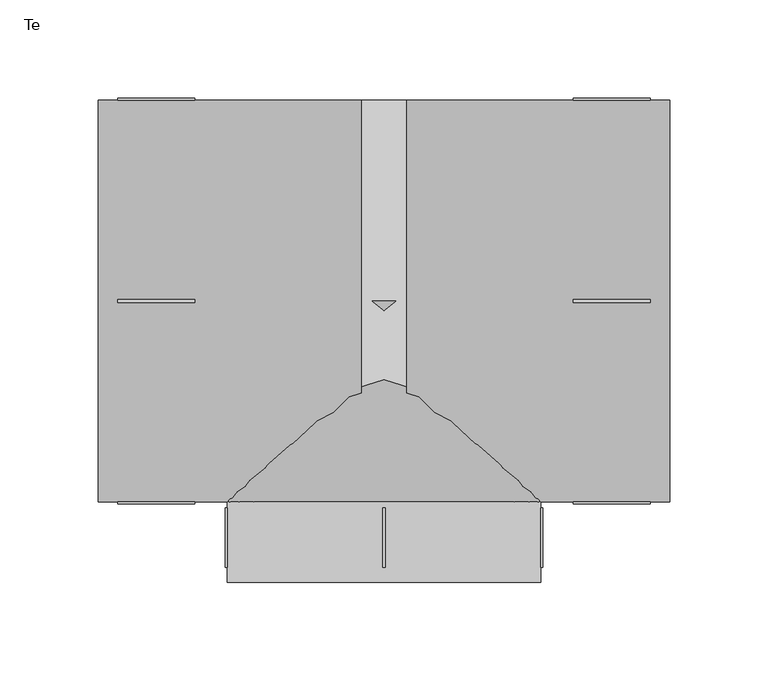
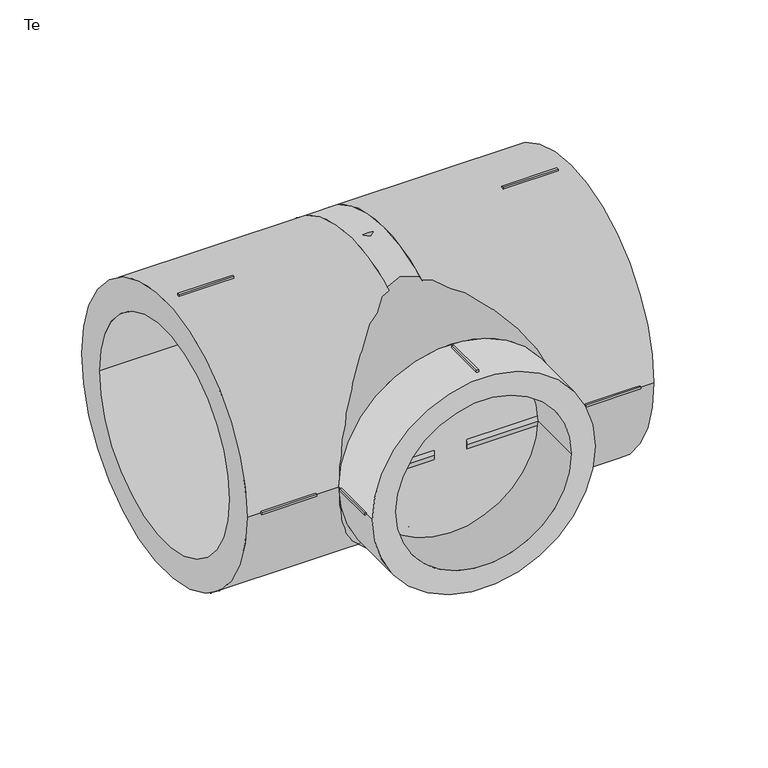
"""IFC4 building model written with IfcOpenShell, lengths in millimetres: pipe fitting geometry, EGB_VASEN_ PPR_Te WXR300_Te reducida WXR310 : Te."""

from ifc_helpers import new_model, si_unit, point, frame, origin, origin_2d, place, context, project, spatial, polyline, circle_curve, trimmed, segment, composite_curve, outline, extrude, source, transform, mapped, element, save
from ifc_brep_helpers import plane_surface, revolved_surface, advanced_brep


def te_dd384a08(model_context):
    return source(origin(), model_context, "Body", "SolidModel", [
        extrude(outline(polyline([(-0.75, -105.0), (0.75, -105.0), (0.75, -135.4), (-0.75, -135.4), (-0.75, -105.0)])), frame((0.0, 0.0, 78.5), z_axis=(0.0, 0.0, 1.0), x_axis=(1.0, 0.0, 0.0)), (0.0, 0.0, 1.0), 2.0),
        extrude(outline(polyline([(-0.75, -105.0), (0.75, -105.0), (0.75, -135.4), (-0.75, -135.4), (-0.75, -105.0)])), frame((0.0, 0.0, -80.5), z_axis=(0.0, 0.0, 1.0), x_axis=(1.0, 0.0, 0.0)), (0.0, 0.0, 1.0), 2.0),
        extrude(outline(polyline([(78.5, -105.0), (80.5, -105.0), (80.5, -135.4), (78.5, -135.4), (78.5, -105.0)])), frame((0.0, 0.0, -0.75), z_axis=(0.0, 0.0, 1.0), x_axis=(1.0, 0.0, 0.0)), (0.0, 0.0, 1.0), 1.5),
        extrude(outline(polyline([(-80.5, -105.0), (-78.5, -105.0), (-78.5, -135.4), (-80.5, -135.4), (-80.5, -105.0)])), frame((0.0, 0.0, -0.75), z_axis=(0.0, 0.0, 1.0), x_axis=(1.0, 0.0, 0.0)), (0.0, 0.0, 1.0), 1.5),
        extrude(outline(polyline([(96.0, -0.75), (96.0, 0.75), (135.2, 0.75), (135.2, -0.75), (96.0, -0.75)])), frame((0.0, 0.0, 101.0), z_axis=(0.0, 0.0, 1.0), x_axis=(1.0, 0.0, 0.0)), (0.0, 0.0, 1.0), 2.0),
        extrude(outline(polyline([(96.0, -0.75), (96.0, 0.75), (135.2, 0.75), (135.2, -0.75), (96.0, -0.75)])), frame((0.0, 0.0, -103.0), z_axis=(0.0, 0.0, 1.0), x_axis=(1.0, 0.0, 0.0)), (0.0, 0.0, 1.0), 2.0),
        extrude(outline(polyline([(96.0, 101.0), (96.0, 103.0), (135.2, 103.0), (135.2, 101.0), (96.0, 101.0)])), frame((0.0, 0.0, -0.75), z_axis=(0.0, 0.0, 1.0), x_axis=(1.0, 0.0, 0.0)), (0.0, 0.0, 1.0), 1.5),
        extrude(outline(polyline([(96.0, -103.0), (96.0, -101.0), (135.2, -101.0), (135.2, -103.0), (96.0, -103.0)])), frame((0.0, 0.0, -0.75), z_axis=(0.0, 0.0, 1.0), x_axis=(1.0, 0.0, 0.0)), (0.0, 0.0, 1.0), 1.5),
        extrude(outline(polyline([(-96.0, 0.75), (-96.0, -0.75), (-135.2, -0.75), (-135.2, 0.75), (-96.0, 0.75)])), frame((0.0, 0.0, 101.0), z_axis=(0.0, 0.0, 1.0), x_axis=(1.0, 0.0, 0.0)), (0.0, 0.0, 1.0), 2.0),
        extrude(outline(polyline([(-96.0, 0.75), (-96.0, -0.75), (-135.2, -0.75), (-135.2, 0.75), (-96.0, 0.75)])), frame((0.0, 0.0, -103.0), z_axis=(0.0, 0.0, 1.0), x_axis=(1.0, 0.0, 0.0)), (0.0, 0.0, 1.0), 2.0),
        extrude(outline(polyline([(-96.0, 103.0), (-96.0, 101.0), (-135.2, 101.0), (-135.2, 103.0), (-96.0, 103.0)])), frame((0.0, 0.0, -0.75), z_axis=(0.0, 0.0, 1.0), x_axis=(1.0, 0.0, 0.0)), (0.0, 0.0, 1.0), 1.5),
        extrude(outline(polyline([(-96.0, -101.0), (-96.0, -103.0), (-135.2, -103.0), (-135.2, -101.0), (-96.0, -101.0)])), frame((0.0, 0.0, -0.75), z_axis=(0.0, 0.0, 1.0), x_axis=(1.0, 0.0, 0.0)), (0.0, 0.0, 1.0), 1.5),
        extrude(outline(composite_curve([segment(trimmed(circle_curve(origin_2d(), 79.5), [point((0.0, 79.5))], [point((0.0, -79.5))], False, "CARTESIAN"), True, "CONTINUOUS"), segment(trimmed(circle_curve(origin_2d(), 79.5), [point((0.0, -79.5))], [point((0.0, 79.5))], False, "CARTESIAN"), True, "CONTINUOUS")], self_intersect=False), holes=[composite_curve([segment(trimmed(circle_curve(origin_2d(), 62.5), [point((0.0, 62.5))], [point((0.0, -62.5))], True, "CARTESIAN"), True, "CONTINUOUS"), segment(trimmed(circle_curve(origin_2d(), 62.5), [point((0.0, -62.5))], [point((0.0, 62.5))], True, "CARTESIAN"), True, "CONTINUOUS")], self_intersect=False)]), frame((0.0, -143.0, 0.0), z_axis=(0.0, 1.0, 0.0), x_axis=(0.0, 0.0, 1.0)), (0.0, 0.0, 1.0), 41.0),
        extrude(outline(composite_curve([segment(trimmed(circle_curve(origin_2d(), 102.0), [point((-102.0, 0.0))], [point((102.0, 0.0))], False, "CARTESIAN"), True, "CONTINUOUS"), segment(trimmed(circle_curve(origin_2d(), 102.0), [point((102.0, 0.0))], [point((-102.0, 0.0))], False, "CARTESIAN"), True, "CONTINUOUS")], self_intersect=False), holes=[composite_curve([segment(trimmed(circle_curve(origin_2d(), 80.0), [point((-80.0, 0.0))], [point((80.0, 0.0))], True, "CARTESIAN"), True, "CONTINUOUS"), segment(trimmed(circle_curve(origin_2d(), 80.0), [point((80.0, 0.0))], [point((-80.0, 0.0))], True, "CARTESIAN"), True, "CONTINUOUS")], self_intersect=False)]), frame((11.6, 0.0, 0.0), z_axis=(1.0, 0.0, 0.0), x_axis=(0.0, 1.0, 0.0)), (0.0, 0.0, 1.0), 133.4),
        extrude(outline(composite_curve([segment(trimmed(circle_curve(origin_2d(), 102.0), [point((-102.0, 0.0))], [point((102.0, 0.0))], False, "CARTESIAN"), True, "CONTINUOUS"), segment(trimmed(circle_curve(origin_2d(), 102.0), [point((102.0, 0.0))], [point((-102.0, 0.0))], False, "CARTESIAN"), True, "CONTINUOUS")], self_intersect=False), holes=[composite_curve([segment(trimmed(circle_curve(origin_2d(), 80.0), [point((-80.0, 0.0))], [point((80.0, 0.0))], True, "CARTESIAN"), True, "CONTINUOUS"), segment(trimmed(circle_curve(origin_2d(), 80.0), [point((80.0, 0.0))], [point((-80.0, 0.0))], True, "CARTESIAN"), True, "CONTINUOUS")], self_intersect=False)]), frame((-145.0, 0.0, 0.0), z_axis=(1.0, 0.0, 0.0), x_axis=(0.0, 1.0, 0.0)), (0.0, 0.0, 1.0), 133.4),
        advanced_brep(
        [(102.0, 0.0, 0.0), (-102.0, 0.0, 0.0), (79.5, -102.0, 0.0), (-79.5, -102.0, 0.0)],
        [
            (0, 1, circle_curve(frame((0.0, 0.0, 0.0), z_axis=(0.0, 1.0, 0.0), x_axis=(1.0, 0.0, 0.0)), 102.0)),
            (1, 0, circle_curve(frame((0.0, 0.0, 0.0), z_axis=(0.0, 1.0, 0.0), x_axis=(-1.0, 0.0, 0.0)), 102.0)),
            (2, 3, circle_curve(frame((0.0, -102.0, 0.0), z_axis=(0.0, -1.0, 0.0), x_axis=(-1.0, 0.0, 0.0)), 79.5)),
            (3, 2, circle_curve(frame((0.0, -102.0, 0.0), z_axis=(0.0, -1.0, 0.0), x_axis=(1.0, 0.0, 0.0)), 79.5)),
            (3, 1),
            (0, 2),
        ],
        [
            plane_surface(frame((0.0, 0.0, 0.0), z_axis=(0.0, 1.0, 0.0), x_axis=(0.0, 0.0, -1.0))),
            plane_surface(frame((0.0, -102.0, 0.0), z_axis=(0.0, -1.0, 0.0), x_axis=(0.0, 0.0, -1.0))),
            revolved_surface(polyline([(-79.5, -102.0, 0.0), (-102.0, 0.0, 0.0)]), (0.0, -462.4, 0.0), (0.0, 1.0, 0.0)),
            revolved_surface(polyline([(79.5, -102.0, 0.0), (102.0, 0.0, 0.0)]), (0.0, -462.4, 0.0), (0.0, 1.0, 0.0)),
        ],
        [
            (0, [[1, 2]]),
            (1, [[3, 4]]),
            (2, [[-4, 5, -1, 6]]),
            (3, [[-3, -6, -2, -5]]),
        ],
    ),
        extrude(outline(composite_curve([segment(trimmed(circle_curve(origin_2d(), 102.0), [point((-102.0, 0.0))], [point((102.0, 0.0))], False, "CARTESIAN"), True, "CONTINUOUS"), segment(trimmed(circle_curve(origin_2d(), 102.0), [point((102.0, 0.0))], [point((-102.0, 0.0))], False, "CARTESIAN"), True, "CONTINUOUS")], self_intersect=False)), frame((-11.6, 0.0, 0.0), z_axis=(1.0, 0.0, 0.0), x_axis=(0.0, 1.0, 0.0)), (0.0, 0.0, 1.0), 23.2),
    ])


if __name__ == "__main__":
    model = new_model("IFC4")
    model_context = context("Model", 3, world=origin())
    ifc_project = project(units=[si_unit("LENGTHUNIT", "METRE", prefix="MILLI")], contexts=[model_context])
    site = spatial("IfcSite", under=ifc_project)
    building = spatial("IfcBuilding", under=site)
    placement = place(None, origin())
    te_shape = te_dd384a08(model_context)
    element("IfcPipeFitting", 1, ObjectType="EGB_VASEN_ PPR_Te WXR300_Te reducida WXR310 : Te", at=placement, inside=building, context=model_context, shape_type="MappedRepresentation", body=[
        mapped(te_shape, transform((0.0, 0.0, 0.0), x_axis=(1.0, 0.0, 0.0), y_axis=(0.0, 1.0, 0.0), z_axis=(0.0, 0.0, 1.0))),
    ])
    save(model, "model.ifc")
